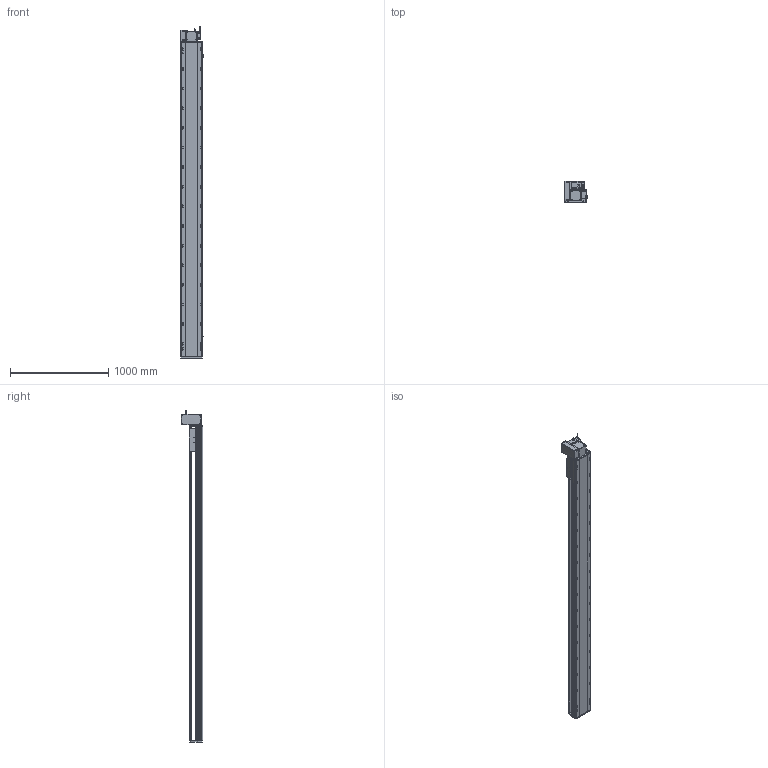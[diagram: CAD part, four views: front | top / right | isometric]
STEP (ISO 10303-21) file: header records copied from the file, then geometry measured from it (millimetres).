
FILE_DESCRIPTION (( 'STEP AP214' ), '1' );
FILE_NAME ('RTB22S-XX-2850-LW-M75-C4.STEP', '2025-12-12T07:04:19', ( '' ), ( '' ), 'SwSTEP 2.0', 'SolidWorks 2018', '' );
FILE_SCHEMA (( 'AUTOMOTIVE_DESIGN' ));
Length unit declared in the file: millimetre
Products named in the file (14): RTB22S-GY-005P^RTB22S-LW-々湍釱蚾饜_RTB22S-XX-XX-LW-M75-C4; RTB22S-GY-017P^RTB22S-LW-々湍釱蚾饜_RTB22S-XX-XX-LW-M75-C4; RTB22S-GY-001耜裔^RTB22S-XX-XX-LW-M75-C4; RTB22S-GY-007奻裔^RTB22S-XX-XX-LW-M75-C4; RTB22S-L-004賑釱^RTB22S-XX-XX-LW-M75-C4; 750W萇儂^RTB22S-XX-XX-LW-M75-C4; RTB22S-GY-008-M75--萇儂啣^RTB22S-LW-々湍釱蚾饜_RTB22S-XX-XX-LW-M75-C4; RTB22S-GY-018P^RTB22S-LW-々湍釱蚾饜_RTB22S-XX-XX-LW-M75-C4; RTB22S-XX-2850-LW-M75-C4; OMRON EE-SX672 传感器^RTB22S-XX-XX-LW-M75-C4; RTB22S-GY-014--々湍釱^RTB22S-LW-々湍釱蚾饜_RTB22S-XX-XX-LW-M75-C4; RTH22-GY-013外置感应片^RTB22S-XX-XX-LW-M75-C4; RTB22S-L-011菁釱^RTB22S-XX-XX-LW-M75-C4; RTB22S-LW-々湍釱蚾饜^RTB22S-XX-XX-LW-M75-C4
Assembly tree (16 placements, depth 3):
  RTB22S-XX-2850-LW-M75-C4
    RTB22S-L-011菁釱^RTB22S-XX-XX-LW-M75-C4
    RTB22S-GY-001耜裔^RTB22S-XX-XX-LW-M75-C4
    750W萇儂^RTB22S-XX-XX-LW-M75-C4
    RTB22S-GY-007奻裔^RTB22S-XX-XX-LW-M75-C4
    RTB22S-L-004賑釱^RTB22S-XX-XX-LW-M75-C4
    RTH22-GY-013外置感应片^RTB22S-XX-XX-LW-M75-C4
    OMRON EE-SX672 传感器^RTB22S-XX-XX-LW-M75-C4  x3
    RTB22S-LW-々湍釱蚾饜^RTB22S-XX-XX-LW-M75-C4
      RTB22S-GY-014--々湍釱^RTB22S-LW-々湍釱蚾饜_RTB22S-XX-XX-LW-M75-C4
      RTB22S-GY-017P^RTB22S-LW-々湍釱蚾饜_RTB22S-XX-XX-LW-M75-C4  x2
      RTB22S-GY-005P^RTB22S-LW-々湍釱蚾饜_RTB22S-XX-XX-LW-M75-C4
      RTB22S-GY-008-M75--萇儂啣^RTB22S-LW-々湍釱蚾饜_RTB22S-XX-XX-LW-M75-C4
      RTB22S-GY-018P^RTB22S-LW-々湍釱蚾饜_RTB22S-XX-XX-LW-M75-C4
Bounding box: 238.5 x 215.5 x 3382.2 mm (x, y, z)
Volume: 42837520.3 mm3; surface area: 4372850.5 mm2
Topology: 15 solids, 15 shells, 2145 faces, 5836 edges, 3722 vertices
Faces by surface type: plane 933, cylinder 730, bspline 296, cone 174, sphere 8, torus 4
Entity records: 58690 total; most frequent: CARTESIAN_POINT 16504, ORIENTED_EDGE 8388, DIRECTION 8228, EDGE_CURVE 4194, AXIS2_PLACEMENT_3D 2962, VERTEX_POINT 2726, VECTOR 2304, LINE 2304
